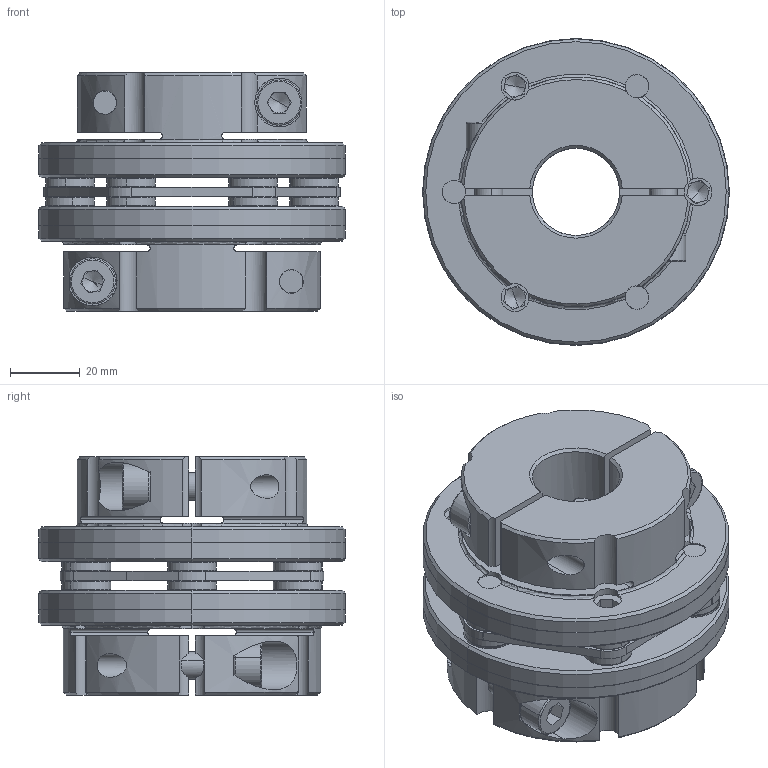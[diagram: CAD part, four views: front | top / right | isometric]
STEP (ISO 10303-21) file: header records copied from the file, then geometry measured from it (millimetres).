
FILE_DESCRIPTION (( 'STEP AP203' ), '1' );
FILE_NAME ('SCDS-88C-TYPE2(25X35).STEP', '2021-12-27T01:59:49', ( '' ), ( '' ), 'SwSTEP 2.0', 'SolidWorks 2021', '' );
FILE_SCHEMA (( 'CONFIG_CONTROL_DESIGN' ));
Length unit declared in the file: millimetre
Products named in the file (1): SCDS-88C-TYPE2(25X35)
Bounding box: 88 x 88 x 68.3 mm (x, y, z)
Volume: 220448.9 mm3; surface area: 69375.4 mm2
Topology: 1 solids, 13 shells, 719 faces, 1793 edges, 1106 vertices
Faces by surface type: cylinder 265, plane 220, cone 126, torus 108
Entity records: 22566 total; most frequent: CARTESIAN_POINT 4848, DIRECTION 4011, ORIENTED_EDGE 3546, EDGE_CURVE 1773, AXIS2_PLACEMENT_3D 1651, VERTEX_POINT 1106, CIRCLE 931, EDGE_LOOP 803
